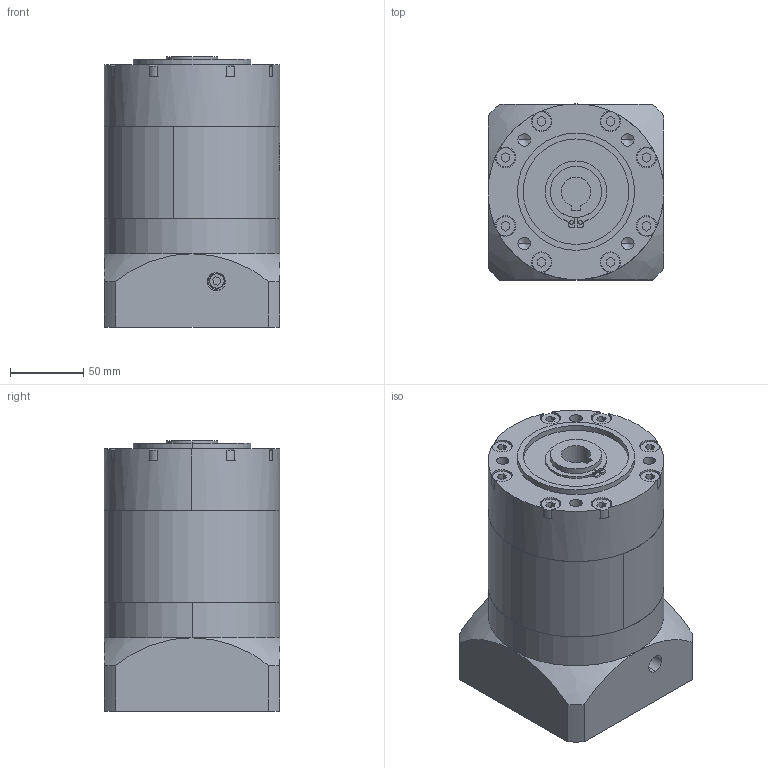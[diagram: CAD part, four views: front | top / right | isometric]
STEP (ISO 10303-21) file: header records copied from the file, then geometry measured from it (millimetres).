
FILE_DESCRIPTION (( 'STEP AP203' ), '1' );
FILE_NAME ('PBE120-L2.STEP', '2022-07-23T09:21:42', ( 'Windows User' ), ( 'P R C' ), 'SwSTEP 2.0', 'SolidWorks 2016', '' );
FILE_SCHEMA (( 'CONFIG_CONTROL_DESIGN' ));
Length unit declared in the file: millimetre
Products named in the file (7): 粣創-6007 40x68x15; PBE120 奻屳唳; PBE120-L2; 囀鞠褒蹟佪 M6x20; PBE120 蟀諉啣-準梓-芞醱; PBE120 內齿圈-优化_二级内齿圈; PBE120 狟屳唳
Assembly tree (6 placements, depth 2):
  PBE120-L2
    PBE120 奻屳唳
    囀鞠褒蹟佪 M6x20
    PBE120 蟀諉啣-準梓-芞醱
    PBE120 內齿圈-优化_二级内齿圈
    PBE120 狟屳唳
    粣創-6007 40x68x15
Bounding box: 120 x 120 x 184.5 mm (x, y, z)
Volume: 1923015.7 mm3; surface area: 237263.8 mm2
Topology: 6 solids, 14 shells, 996 faces, 2665 edges, 1747 vertices
Faces by surface type: plane 517, bspline 269, cylinder 192, cone 18
Entity records: 41249 total; most frequent: CARTESIAN_POINT 17370, ORIENTED_EDGE 5266, DIRECTION 4100, EDGE_CURVE 2633, VERTEX_POINT 1739, AXIS2_PLACEMENT_3D 1406, VECTOR 1288, LINE 1288
